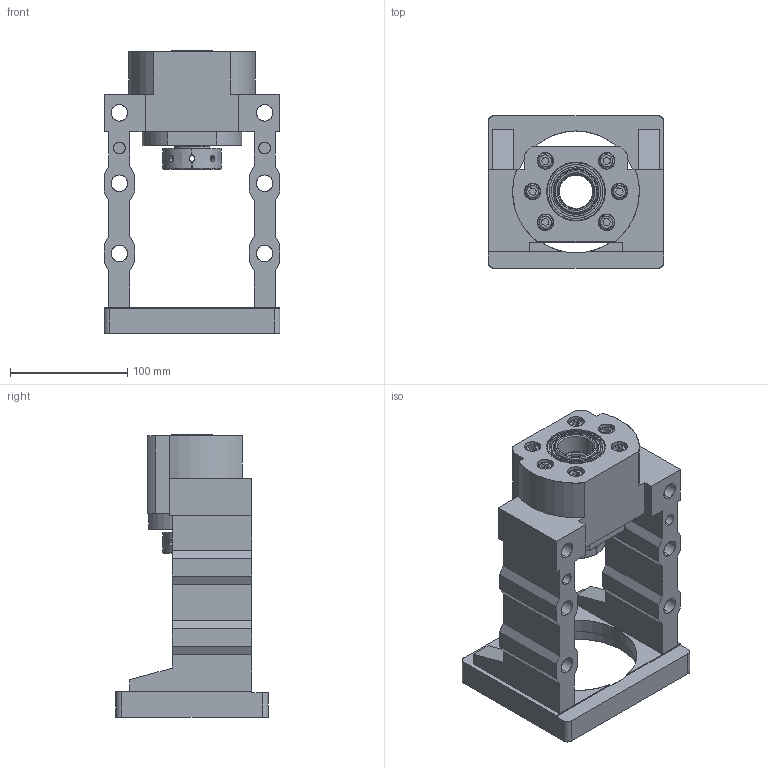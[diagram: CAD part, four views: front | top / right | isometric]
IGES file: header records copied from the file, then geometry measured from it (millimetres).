
Start section: SolidWorks IGES file using analytic representation for surfaces
Bounding box: 150 x 130 x 241 mm (x, y, z)
Surface area: 197624 mm2 (no closed solid volume)
Topology: 0 solids, 0 shells, 343 faces, 5976 edges, 5968 vertices
Faces by surface type: revolution 182, bspline 161
